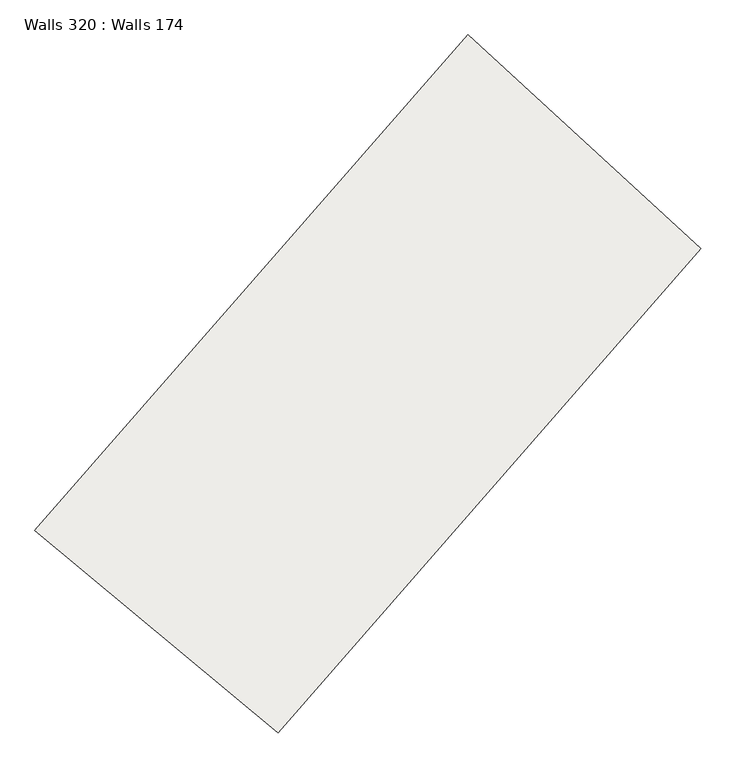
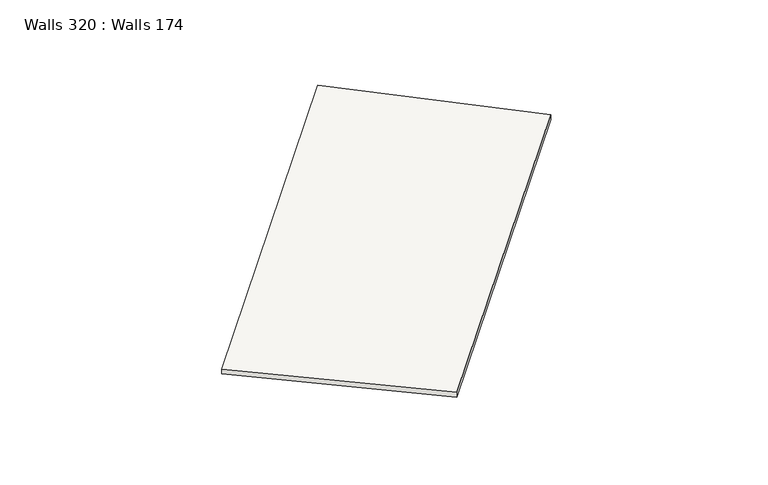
"""IFC4 building model written with IfcOpenShell, lengths in millimetres: slab geometry, Walls 320 : Walls 174."""

from ifc_helpers import new_model, si_unit, frame, origin, place, context, project, spatial, source, transform, mapped, element, save
from ifc_brep_helpers import plane_surface, spline_curve, spline_surface, advanced_brep


def walls_320_walls_174_3455c107(model_context):
    return source(origin(), model_context, "Body", "AdvancedBrep", [
        advanced_brep(
        [(226283.8414192, 132881.9431479, 642070.0), (229511.7571347, 130194.8331513, 642070.0), (229511.7571347, 130194.8331513, 642170.0), (226283.8414192, 132881.9431479, 642170.0), (232038.0150991, 139463.9941908, 642170.0), (232038.0150991, 139463.9941908, 642270.0), (235132.3347424, 136624.0670887, 642270.0), (235132.3347424, 136624.0670887, 642170.0)],
        [
            (0, 1),
            (1, 2),
            (2, 3),
            (3, 0),
            (4, 5),
            (5, 6),
            (6, 7),
            (7, 4),
            (5, 3, spline_curve(3, [(232038.0150991, 139463.9941908, 642270.0), (230067.30854253, 137316.757381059, 642236.666666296), (228148.50382011, 135121.886088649, 642203.333333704), (226283.8414192, 132881.9431479, 642170.0)], [4, 4], [0.0, 28.354573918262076])),
            (2, 6, spline_curve(3, [(229511.7571347, 130194.8331513, 642170.0), (231333.127207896, 132382.770783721, 642203.333333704), (233207.382566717, 134526.683206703, 642236.666666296), (235132.3347424, 136624.0670887, 642270.0)], [4, 4], [0.0, 28.354573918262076])),
            (7, 1, spline_curve(3, [(235132.3347424, 136624.0670887, 642170.0), (233207.382566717, 134526.683206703, 642136.666666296), (231333.127207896, 132382.770783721, 642103.333333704), (229511.7571347, 130194.8331513, 642070.0)], [4, 4], [0.0, 28.354573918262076])),
            (0, 4, spline_curve(3, [(226283.8414192, 132881.9431479, 642070.0), (228148.50382011, 135121.886088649, 642103.333333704), (230067.30854253, 137316.757381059, 642136.666666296), (232038.0150991, 139463.9941908, 642170.0)], [4, 4], [0.0, 28.354573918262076])),
        ],
        [
            plane_surface(frame((227897.7992769, 131538.3881496, 642120.0), z_axis=(-0.639788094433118, -0.7685513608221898, 0.0), x_axis=(0.7685513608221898, -0.639788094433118, 0.0))),
            plane_surface(frame((233585.1749208, 138044.0306398, 642220.0), z_axis=(0.6761731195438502, 0.7367427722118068, 0.0), x_axis=(0.7367427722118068, -0.6761731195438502, 0.0))),
            spline_surface(3, 3, [[(235132.3347424, 136624.0670887, 642270.0), (233207.382566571, 134526.683206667, 642236.666666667), (231333.127208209, 132382.770783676, 642203.333333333), (229511.7571347, 130194.8331513, 642170.0)], [(234100.894861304, 137570.709456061, 642270.0), (232160.691225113, 135456.707931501, 642236.666666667), (230271.586078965, 133295.809218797, 642203.333333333), (228435.785229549, 131090.536483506, 642170.0)], [(233069.454980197, 138517.351823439, 642270.0), (231113.999883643, 136386.73265635, 642236.666666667), (229210.044949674, 134208.8476539, 642203.333333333), (227359.813324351, 131986.239815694, 642170.0)], [(232038.0150991, 139463.9941908, 642270.0), (230067.308542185, 137316.757381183, 642236.666666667), (228148.50382043, 135121.886089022, 642203.333333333), (226283.8414192, 132881.9431479, 642170.0)]], [4, 4], [4, 4], [0.0, 13.779527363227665], [0.0, 28.354573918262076]),
            spline_surface(3, 3, [[(232038.0150991, 139463.9941908, 642170.0), (230067.308542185, 137316.757381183, 642136.666666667), (228148.50382043, 135121.886089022, 642103.333333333), (226283.8414192, 132881.9431479, 642070.0)], [(233069.454980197, 138517.351823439, 642170.0), (231113.999883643, 136386.73265635, 642136.666666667), (229210.044949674, 134208.8476539, 642103.333333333), (227359.813324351, 131986.239815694, 642070.0)], [(234100.894861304, 137570.709456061, 642170.0), (232160.691225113, 135456.707931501, 642136.666666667), (230271.586078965, 133295.809218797, 642103.333333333), (228435.785229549, 131090.536483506, 642070.0)], [(235132.3347424, 136624.0670887, 642170.0), (233207.382566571, 134526.683206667, 642136.666666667), (231333.127208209, 132382.770783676, 642103.333333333), (229511.7571347, 130194.8331513, 642070.0)]], [4, 4], [4, 4], [0.0, 13.77952736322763], [0.0, 28.354573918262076]),
            spline_surface(3, 3, [[(235132.3347424, 136624.0670887, 642170.0), (233207.382566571, 134526.683206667, 642136.666666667), (231333.127208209, 132382.770783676, 642103.333333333), (229511.7571347, 130194.8331513, 642070.0)], [(235132.3347424, 136624.0670887, 642203.333333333), (233207.382566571, 134526.683206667, 642170.0), (231333.127208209, 132382.770783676, 642136.666666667), (229511.7571347, 130194.8331513, 642103.333333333)], [(235132.3347424, 136624.0670887, 642236.666666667), (233207.382566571, 134526.683206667, 642203.333333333), (231333.127208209, 132382.770783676, 642170.0), (229511.7571347, 130194.8331513, 642136.666666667)], [(235132.3347424, 136624.0670887, 642270.0), (233207.382566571, 134526.683206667, 642236.666666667), (231333.127208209, 132382.770783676, 642203.333333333), (229511.7571347, 130194.8331513, 642170.0)]], [4, 4], [4, 4], [0.0, 0.3280839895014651], [0.0, 28.021595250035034]),
            spline_surface(3, 3, [[(232038.0150991, 139463.9941908, 642270.0), (230067.308542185, 137316.757381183, 642236.666666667), (228148.50382043, 135121.886089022, 642203.333333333), (226283.8414192, 132881.9431479, 642170.0)], [(232038.0150991, 139463.9941908, 642236.666666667), (230067.308542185, 137316.757381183, 642203.333333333), (228148.50382043, 135121.886089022, 642170.0), (226283.8414192, 132881.9431479, 642136.666666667)], [(232038.0150991, 139463.9941908, 642203.333333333), (230067.308542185, 137316.757381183, 642170.0), (228148.50382043, 135121.886089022, 642136.666666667), (226283.8414192, 132881.9431479, 642103.333333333)], [(232038.0150991, 139463.9941908, 642170.0), (230067.308542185, 137316.757381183, 642136.666666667), (228148.50382043, 135121.886089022, 642103.333333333), (226283.8414192, 132881.9431479, 642070.0)]], [4, 4], [4, 4], [0.0, 0.3280839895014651], [0.0, 28.687553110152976]),
        ],
        [
            (0, [[1, 2, 3, 4]]),
            (1, [[5, 6, 7, 8]]),
            (2, [[-6, 9, -3, 10]]),
            (3, [[-8, 11, -1, 12]]),
            (4, [[-7, -10, -2, -11]]),
            (5, [[-5, -12, -4, -9]]),
        ],
    ),
    ])


if __name__ == "__main__":
    model = new_model("IFC4")
    model_context = context("Model", 3, world=origin())
    ifc_project = project(units=[si_unit("LENGTHUNIT", "METRE", prefix="MILLI")], contexts=[model_context])
    site = spatial("IfcSite", under=ifc_project)
    building = spatial("IfcBuilding", under=site)
    placement = place(None, origin())
    walls_320_walls_174_shape = walls_320_walls_174_3455c107(model_context)
    element("IfcSlab", 1, ObjectType="Walls 320 : Walls 174", at=placement, inside=building, context=model_context, shape_type="MappedRepresentation", body=[
        mapped(walls_320_walls_174_shape, transform((0.0, 0.0, 0.0), x_axis=(1.0, 0.0, 0.0), y_axis=(0.0, 1.0, 0.0), z_axis=(0.0, 0.0, 1.0))),
    ])
    save(model, "model.ifc")
